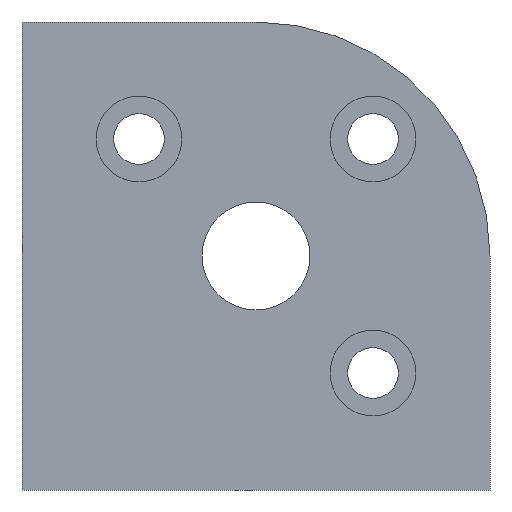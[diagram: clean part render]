
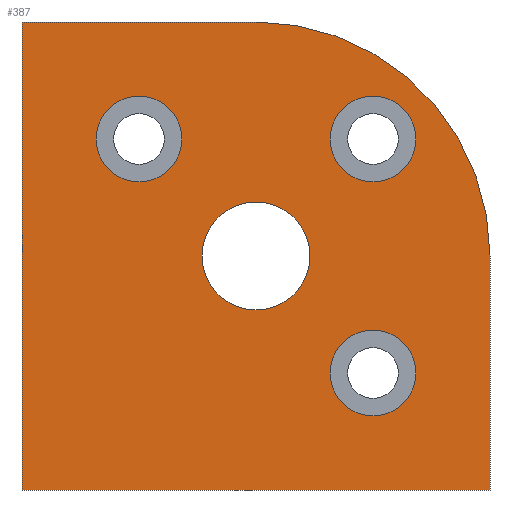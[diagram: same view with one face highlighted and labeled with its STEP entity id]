
A CAD part, front view. The second image highlights one B-rep face of the part: STEP entity #387.
In plain terms, the highlighted planar face has unit normal (0, -1, 0).
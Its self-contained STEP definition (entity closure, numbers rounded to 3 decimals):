
#20=CIRCLE('',#406,30.);
#26=CIRCLE('',#416,6.918);
#27=CIRCLE('',#417,5.5);
#28=CIRCLE('',#418,5.5);
#29=CIRCLE('',#419,5.5);
#73=ORIENTED_EDGE('',*,*,#121,.T.);
#74=ORIENTED_EDGE('',*,*,#122,.T.);
#75=ORIENTED_EDGE('',*,*,#123,.T.);
#76=ORIENTED_EDGE('',*,*,#124,.T.);
#77=ORIENTED_EDGE('',*,*,#102,.F.);
#78=ORIENTED_EDGE('',*,*,#115,.F.);
#79=ORIENTED_EDGE('',*,*,#112,.F.);
#80=ORIENTED_EDGE('',*,*,#109,.F.);
#81=ORIENTED_EDGE('',*,*,#106,.F.);
#102=EDGE_CURVE('',#131,#132,#155,.T.);
#106=EDGE_CURVE('',#132,#135,#159,.T.);
#109=EDGE_CURVE('',#135,#137,#20,.T.);
#112=EDGE_CURVE('',#137,#139,#163,.T.);
#115=EDGE_CURVE('',#139,#131,#166,.T.);
#121=EDGE_CURVE('',#145,#145,#26,.T.);
#122=EDGE_CURVE('',#146,#146,#27,.T.);
#123=EDGE_CURVE('',#147,#147,#28,.T.);
#124=EDGE_CURVE('',#148,#148,#29,.T.);
#131=VERTEX_POINT('',#520);
#132=VERTEX_POINT('',#521);
#135=VERTEX_POINT('',#529);
#137=VERTEX_POINT('',#535);
#139=VERTEX_POINT('',#541);
#145=VERTEX_POINT('',#559);
#146=VERTEX_POINT('',#561);
#147=VERTEX_POINT('',#563);
#148=VERTEX_POINT('',#565);
#155=LINE('',#519,#168);
#159=LINE('',#528,#172);
#163=LINE('',#540,#176);
#166=LINE('',#546,#179);
#168=VECTOR('',#440,1000.);
#172=VECTOR('',#446,1000.);
#176=VECTOR('',#458,1000.);
#179=VECTOR('',#463,1000.);
#191=EDGE_LOOP('',(#73));
#192=EDGE_LOOP('',(#74));
#193=EDGE_LOOP('',(#75));
#194=EDGE_LOOP('',(#76));
#195=EDGE_LOOP('',(#77,#78,#79,#80,#81));
#226=FACE_BOUND('',#191,.T.);
#227=FACE_BOUND('',#192,.T.);
#228=FACE_BOUND('',#193,.T.);
#229=FACE_BOUND('',#194,.T.);
#230=FACE_BOUND('',#195,.T.);
#256=PLANE('',#415);
#387=ADVANCED_FACE('',(#226,#227,#228,#229,#230),#256,.F.);
#406=AXIS2_PLACEMENT_3D('',#534,#451,#452);
#415=AXIS2_PLACEMENT_3D('',#557,#475,#476);
#416=AXIS2_PLACEMENT_3D('',#558,#477,#478);
#417=AXIS2_PLACEMENT_3D('',#560,#479,#480);
#418=AXIS2_PLACEMENT_3D('',#562,#481,#482);
#419=AXIS2_PLACEMENT_3D('',#564,#483,#484);
#440=DIRECTION('',(0.,0.,1.));
#446=DIRECTION('',(1.,0.,0.));
#451=DIRECTION('',(0.,1.,0.));
#452=DIRECTION('',(-1.,0.,0.));
#458=DIRECTION('',(0.,0.,-1.));
#463=DIRECTION('',(-1.,0.,0.));
#475=DIRECTION('',(0.,1.,0.));
#476=DIRECTION('',(0.,0.,1.));
#477=DIRECTION('',(0.,1.,0.));
#478=DIRECTION('',(0.,0.,-1.));
#479=DIRECTION('',(0.,1.,0.));
#480=DIRECTION('',(0.,0.,-1.));
#481=DIRECTION('',(0.,1.,0.));
#482=DIRECTION('',(0.,0.,-1.));
#483=DIRECTION('',(0.,1.,0.));
#484=DIRECTION('',(0.,0.,-1.));
#519=CARTESIAN_POINT('',(0.,0.,0.));
#520=CARTESIAN_POINT('',(0.,0.,0.));
#521=CARTESIAN_POINT('',(0.,0.,60.));
#528=CARTESIAN_POINT('',(0.,0.,60.));
#529=CARTESIAN_POINT('',(30.,0.,60.));
#534=CARTESIAN_POINT('',(30.,0.,30.));
#535=CARTESIAN_POINT('',(60.,0.,30.));
#540=CARTESIAN_POINT('',(60.,0.,30.));
#541=CARTESIAN_POINT('',(60.,0.,0.));
#546=CARTESIAN_POINT('',(60.,0.,0.));
#557=CARTESIAN_POINT('',(30.,0.,30.));
#558=CARTESIAN_POINT('',(30.,0.,30.));
#559=CARTESIAN_POINT('',(30.,0.,23.083));
#560=CARTESIAN_POINT('',(45.,0.,15.));
#561=CARTESIAN_POINT('',(45.,0.,9.5));
#562=CARTESIAN_POINT('',(45.,0.,45.));
#563=CARTESIAN_POINT('',(45.,0.,39.5));
#564=CARTESIAN_POINT('',(15.,0.,45.));
#565=CARTESIAN_POINT('',(15.,0.,39.5));
